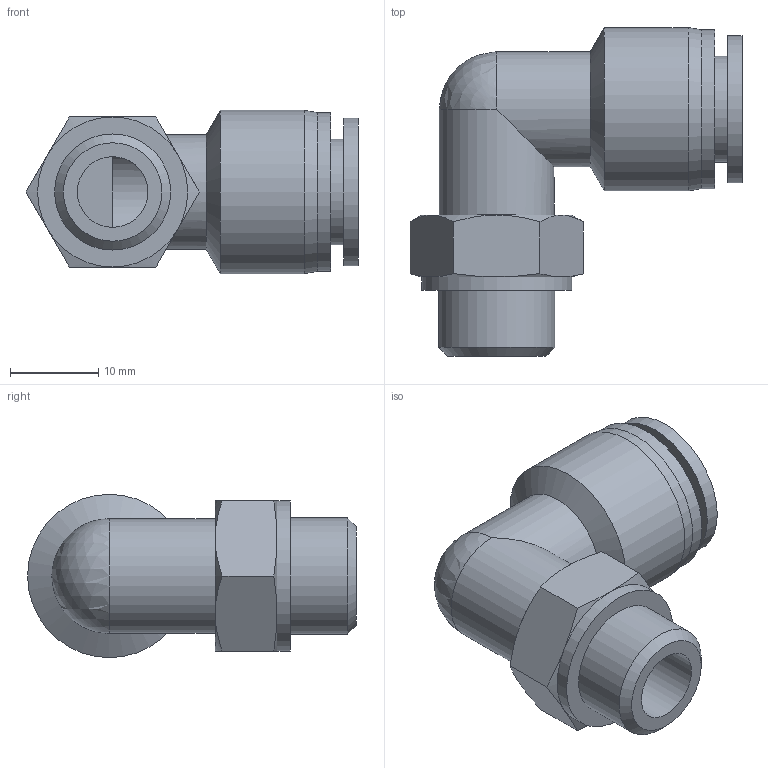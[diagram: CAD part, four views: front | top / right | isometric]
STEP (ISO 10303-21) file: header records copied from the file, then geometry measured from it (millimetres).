
FILE_DESCRIPTION((''),'2;1');
FILE_NAME('S:\UTecnico\ArchivioUT\Speciali Clienti\Speciali KONFIT\DISEGNI 3D\RP\RP 72\RP721410.stp','2013-06-07T10:05:03',('UT5'),(''),'Autodesk Inventor 2013','Autodesk Inventor 2013','');
FILE_SCHEMA(('AUTOMOTIVE_DESIGN { 1 0 10303 214 1 1 1 1 }'));
Length unit declared in the file: millimetre
Products named in the file (1): RP721410
Bounding box: 37.62 x 37.25 x 18.5 mm (x, y, z)
Volume: 6660.2 mm3; surface area: 4945.5 mm2
Topology: 1 solids, 1 shells, 40 faces, 87 edges, 51 vertices
Faces by surface type: cone 15, plane 14, cylinder 10, sphere 1
Full cylindrical faces by diameter (mm): 8 x1, 10 x1, 12 x1, 13 x2, 13.157 x1, 16.7 x1, 17 x1, 18 x1, 18.5 x1
Entity records: 998 total; most frequent: CARTESIAN_POINT 223, DIRECTION 157, ORIENTED_EDGE 134, AXIS2_PLACEMENT_3D 74, EDGE_CURVE 67, EDGE_LOOP 59, VERTEX_POINT 46, FACE_OUTER_BOUND 40
